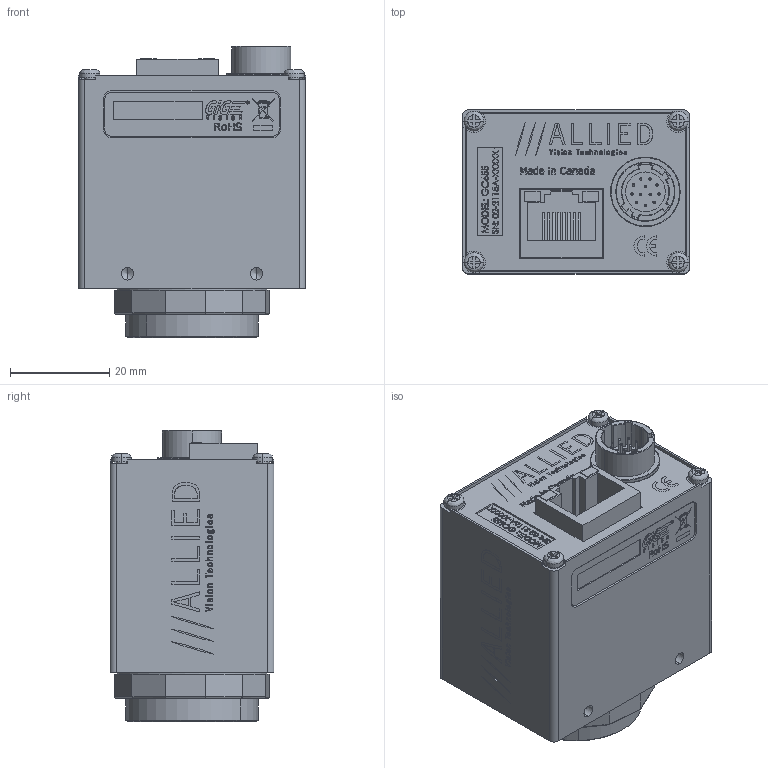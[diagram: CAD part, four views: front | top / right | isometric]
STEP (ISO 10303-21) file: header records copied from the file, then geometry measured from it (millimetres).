
FILE_DESCRIPTION (( 'STEP AP214' ), '1' );
FILE_NAME ('GC655.STEP', '2013-07-31T17:37:08', ( '' ), ( '' ), 'SwSTEP 2.0', 'SolidWorks 2013', '' );
FILE_SCHEMA (( 'AUTOMOTIVE_DESIGN' ));
Length unit declared in the file: millimetre
Products named in the file (20): 220071-SONY ICX414AL; Sony ICX414 BODY; Sony ICX414 WINDOW; 740032B-GC MAIN LABEL; 140023-SCREW SKT CAP M2x10 SS; 740123A-GC MAC LABEL; 140017-SCREW PAN M2x4 SS; GC655; 200047A-A GC INTERFACE PCB ASSY; 260033-AMPHENOL RJHS-3381; 110042C GC-CCD FRONT_Finished with logo; 740039A-A GC655M LABEL PRINT; 260034-HIROSE HR10A-10R-12PB; 110043A GC BACK PLATE; 110043A GC BACK PLATE - WO HW; 110003AC-CV CMOUNT RING; 140013-washer spring lock M2; 110031A-B EC-CCD LOCKING RING; 110045B-EC-CCD DUST SHIELD GASKET; 200036A-EC655 MONO PCB ASSY
Assembly tree (24 placements, depth 4):
  GC655
    140017-SCREW PAN M2x4 SS  x4
    740123A-GC MAC LABEL
    140023-SCREW SKT CAP M2x10 SS  x2
    740032B-GC MAIN LABEL
    200036A-EC655 MONO PCB ASSY
      220071-SONY ICX414AL
        Sony ICX414 WINDOW
        Sony ICX414 BODY
    110045B-EC-CCD DUST SHIELD GASKET
    110031A-B EC-CCD LOCKING RING
    140013-washer spring lock M2  x2
    110003AC-CV CMOUNT RING
    110043A GC BACK PLATE
      110043A GC BACK PLATE - WO HW
    260034-HIROSE HR10A-10R-12PB
    110042C GC-CCD FRONT_Finished with logo
    200047A-A GC INTERFACE PCB ASSY
      260033-AMPHENOL RJHS-3381
    740039A-A GC655M LABEL PRINT
Bounding box: 45.72 x 33.02 x 58.62 mm (x, y, z)
Volume: 22363.8 mm3; surface area: 31878.5 mm2
Topology: 20 solids, 20 shells, 3195 faces, 8415 edges, 5468 vertices
Faces by surface type: plane 1835, bspline 900, cylinder 280, cone 180
Entity records: 161141 total; most frequent: CARTESIAN_POINT 55863, ORIENTED_EDGE 16150, DIRECTION 11483, EDGE_CURVE 8075, LINE 5601, VECTOR 5601, VERTEX_POINT 5298, EDGE_LOOP 3417
